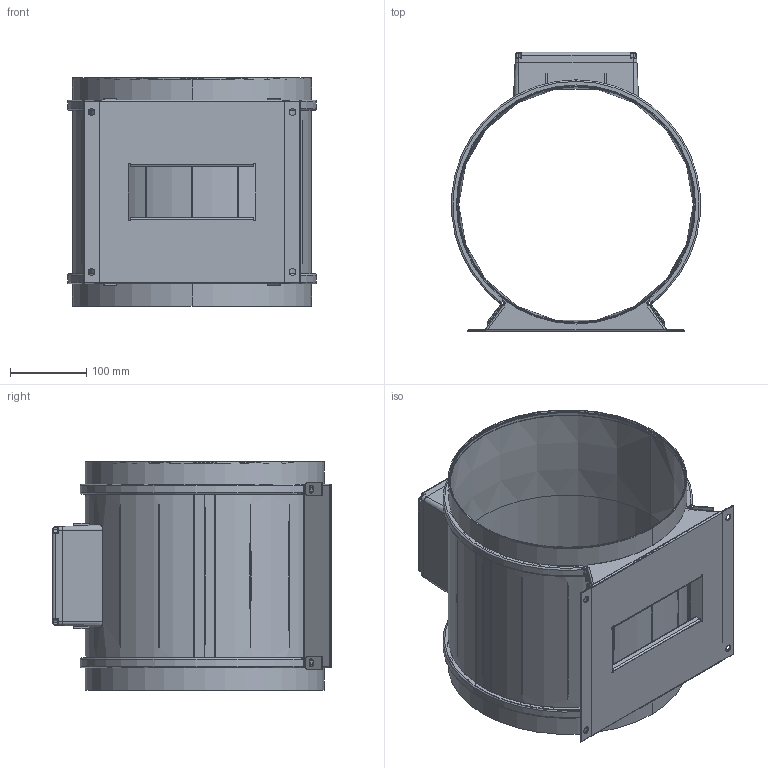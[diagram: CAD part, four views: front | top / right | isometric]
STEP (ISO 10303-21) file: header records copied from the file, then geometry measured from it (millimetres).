
FILE_DESCRIPTION (( 'STEP AP203' ), '1' );
FILE_NAME ('130677-00_EM315E2M01.STEP', '2014-08-27T14:01:15', ( '' ), ( '' ), 'SwSTEP 2.0', 'SolidWorks 2012', '' );
FILE_SCHEMA (( 'CONFIG_CONTROL_DESIGN' ));
Length unit declared in the file: millimetre
Products named in the file (1): 130677-00_EM315E2M01
Bounding box: 326.31 x 366.42 x 300 mm (x, y, z)
Surface area: 909413.9 mm2 (no closed solid volume)
Topology: 0 solids, 20 shells, 633 faces, 3075 edges, 2321 vertices
Faces by surface type: cylinder 221, plane 210, bspline 94, torus 73, cone 35
Entity records: 39393 total; most frequent: CARTESIAN_POINT 17016, ORIENTED_EDGE 4272, DIRECTION 4157, EDGE_CURVE 3067, VERTEX_POINT 2321, VECTOR 1591, LINE 1591, AXIS2_PLACEMENT_3D 1283
